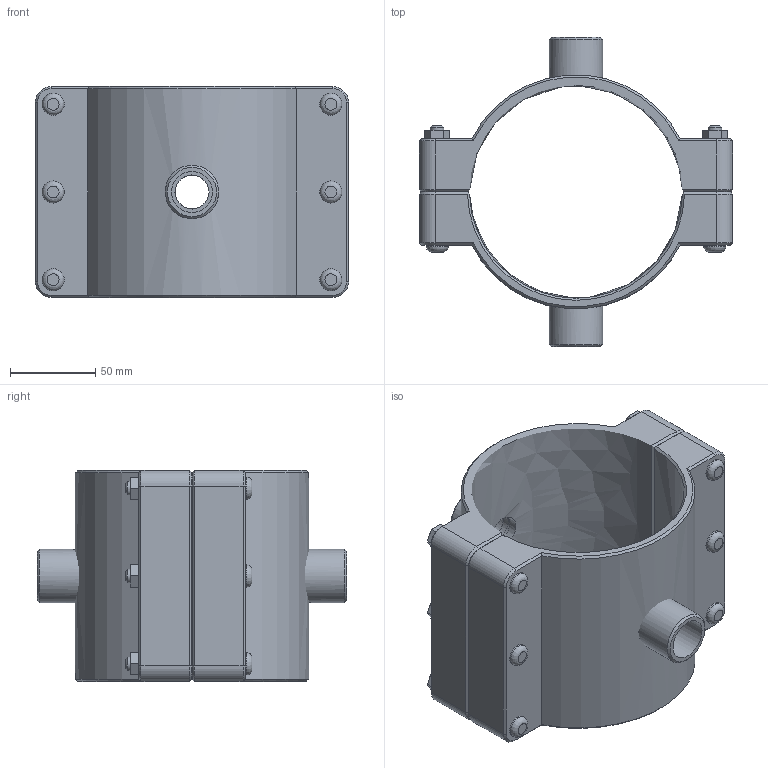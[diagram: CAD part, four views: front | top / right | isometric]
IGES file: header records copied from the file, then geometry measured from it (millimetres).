
Global section: file name: 161760125007_161860125007.ipt; native system: Autodesk Inventor 2015; preprocessor: unknown; author: KIM; date: 20170618.093747; units: millimetre
Bounding box: 184 x 182 x 124 mm (x, y, z)
Volume: 730820.6 mm3; surface area: 149803.5 mm2
Topology: 3 solids, 3 shells, 179 faces, 416 edges, 265 vertices
Faces by surface type: plane 102, cylinder 30, cone 28, revolution 19
Full cylindrical faces by diameter (mm): 8 x6, 13 x12, 31.352 x2
